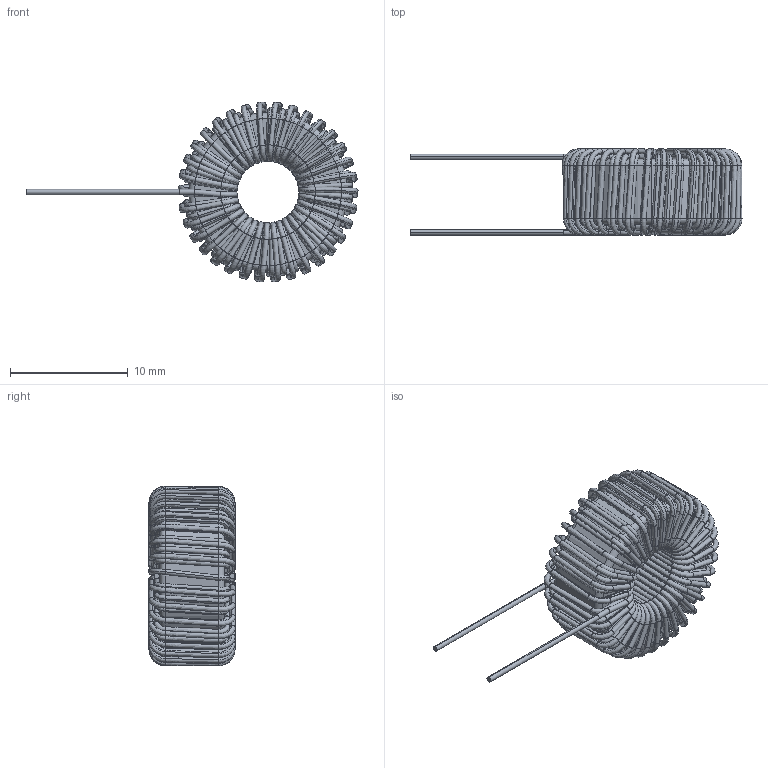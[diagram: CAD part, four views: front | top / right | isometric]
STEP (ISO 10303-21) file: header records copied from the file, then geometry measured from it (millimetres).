
FILE_DESCRIPTION (( 'STEP AP214' ), '1' );
FILE_NAME ('HF127-331M-1.7AV REV.B.STEP', '2018-12-05T03:58:05', ( '' ), ( '' ), 'SwSTEP 2.0', 'SolidWorks 2015', '' );
FILE_SCHEMA (( 'AUTOMOTIVE_DESIGN' ));
Length unit declared in the file: millimetre
Products named in the file (1): HF127-331M-1.7AV REV.B
Bounding box: 28.14 x 7.31 x 15.24 mm (x, y, z)
Volume: 805.5 mm3; surface area: 2667.1 mm2
Topology: 4 solids, 4 shells, 1254 faces, 2506 edges, 1260 vertices
Faces by surface type: bspline 1226, cylinder 12, plane 8, torus 8
Entity records: 120957 total; most frequent: CARTESIAN_POINT 88141, ORIENTED_EDGE 5012, DIRECTION 2582, EDGE_CURVE 2506, AXIS2_PLACEMENT_3D 1285, VERTEX_POINT 1260, UNCERTAINTY_MEASURE_WITH_UNIT 1260, SURFACE_STYLE_FILL_AREA 1259
